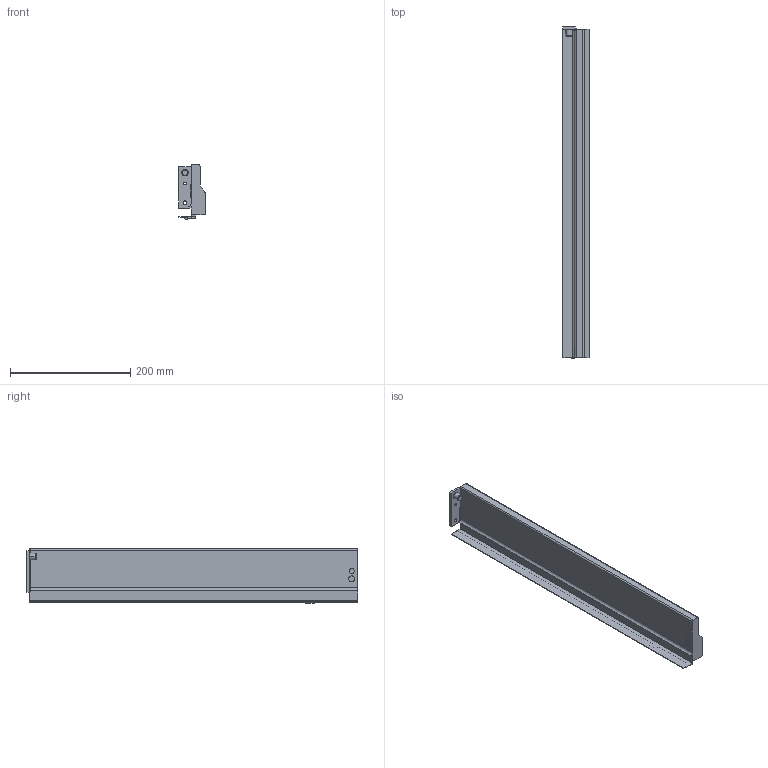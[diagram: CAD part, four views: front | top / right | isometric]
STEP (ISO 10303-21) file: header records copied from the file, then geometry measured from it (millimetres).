
FILE_DESCRIPTION (( 'STEP AP214' ), '1' );
FILE_NAME ('_IMOS_NOVA-Pro_Dekor-H90_CL_NL550_RE.step', '2010-07-06T09:00:26', ( 'grass' ), ( '' ), 'SwSTEP 2.0', 'SolidWorks 2009', '' );
FILE_SCHEMA (( 'AUTOMOTIVE_DESIGN' ));
Length unit declared in the file: millimetre
Products named in the file (1): _IMOS_NOVA-Pro_Dekor-H90_CL_NL550_RE
Bounding box: 44.3 x 552.7 x 90.49 mm (x, y, z)
Volume: 485874.6 mm3; surface area: 190206.7 mm2
Topology: 1 solids, 1 shells, 89 faces, 239 edges, 156 vertices
Faces by surface type: plane 57, cylinder 27, cone 4, bspline 1
Entity records: 2825 total; most frequent: CARTESIAN_POINT 506, ORIENTED_EDGE 478, DIRECTION 474, EDGE_CURVE 239, VECTOR 178, LINE 178, VERTEX_POINT 156, AXIS2_PLACEMENT_3D 148
